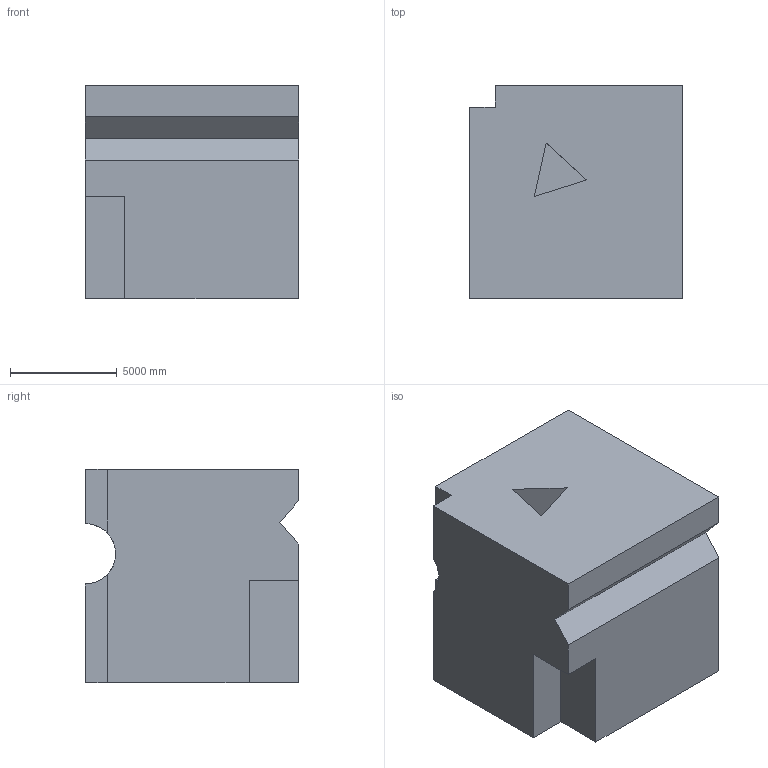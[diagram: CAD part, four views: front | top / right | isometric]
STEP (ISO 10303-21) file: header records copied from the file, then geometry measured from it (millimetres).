
FILE_DESCRIPTION (( 'STEP AP203' ), '1' );
FILE_NAME ('1466.STEP', '2022-08-18T14:38:50', ( 'user' ), ( '' ), 'SwSTEP 2.0', 'SolidWorks 2021', '' );
FILE_SCHEMA (( 'CONFIG_CONTROL_DESIGN' ));
Length unit declared in the file: centimetre
Products named in the file (1): 1466
Bounding box: 10000 x 10000 x 10000 mm (x, y, z)
Volume: 919426090783.4 mm3; surface area: 638213555.3 mm2
Topology: 1 solids, 1 shells, 22 faces, 57 edges, 38 vertices
Faces by surface type: plane 21, cylinder 1
Entity records: 742 total; most frequent: CARTESIAN_POINT 118, ORIENTED_EDGE 114, DIRECTION 107, EDGE_CURVE 57, VECTOR 53, LINE 53, VERTEX_POINT 38, AXIS2_PLACEMENT_3D 27
